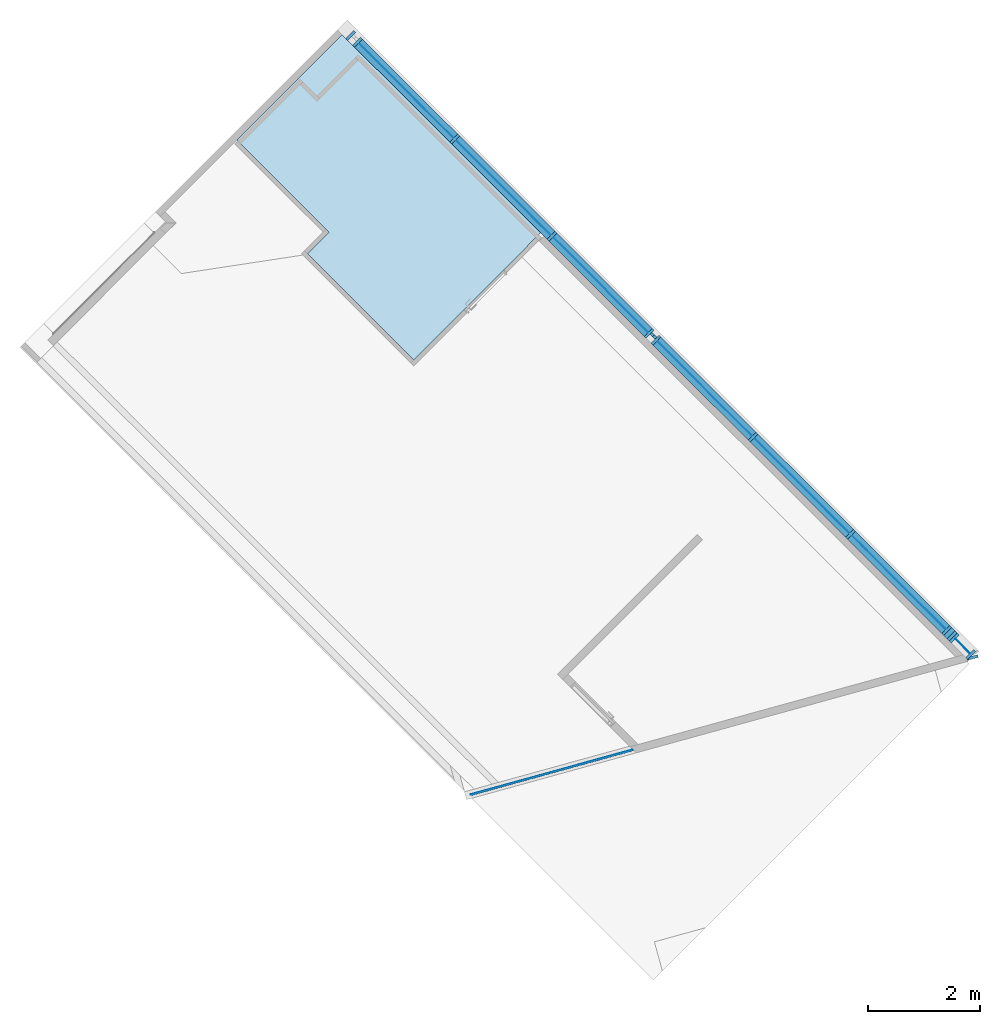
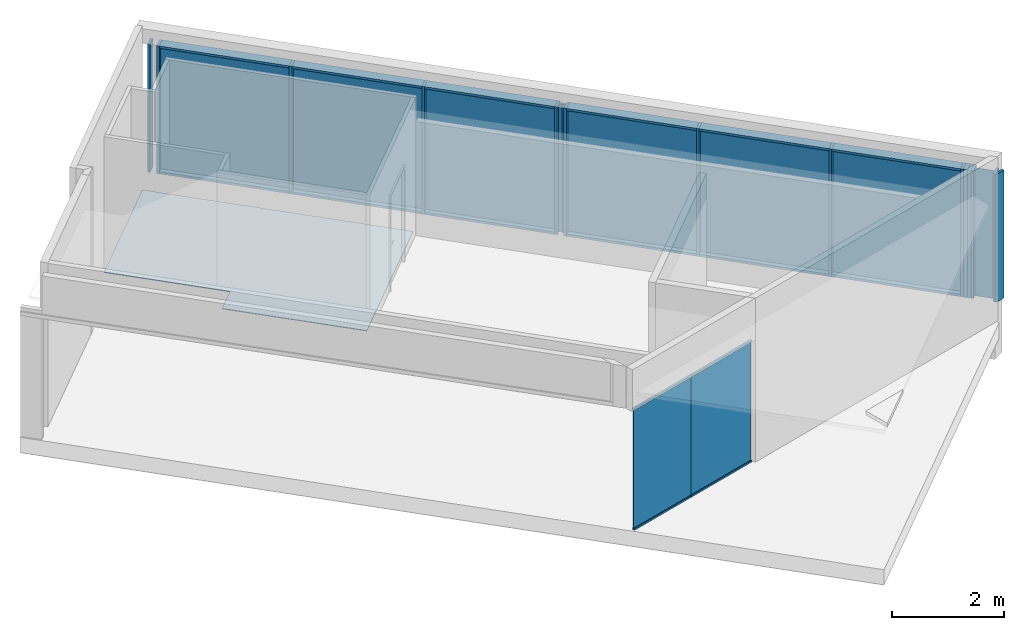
# One storey, part 1 of 6: 28 members, 13 plates, 1 slab, 6 elements without a shape of their own.
"""IFC2X3 building model written with IfcOpenShell, lengths in millimetres."""

from ifc_helpers import new_model, entity, si_unit, converted_unit, derived_unit, direction, frame, frame_2d, origin, origin_with_axes, origin_2d_with_axis, place, context, subcontext, project, spatial, polyline, rectangle, outline, extrude, source, transform, mapped, material, layer, layer_set, layer_usage, type_object, element, aggregate, save


model = new_model("IFC2X3")

# Units and contexts
model_context = context("Model", 3, precision=0.01, world=origin(), true_north=direction((6.12323399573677e-17, 1.0)))
plan_context = context("Plan", 3, precision=1e-05, world=origin_with_axes())
body_context = subcontext(model_context, "Body", "Model", "MODEL_VIEW")
ifc_project = project(units=[converted_unit("PLANEANGLEUNIT", "DEGREE", entity("IfcPositiveLengthMeasure", 0.0174532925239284), si_unit("PLANEANGLEUNIT", "RADIAN"), dimensions=[0, 0, 0, 0, 0, 0, 0]), si_unit("AREAUNIT", "SQUARE_METRE"), si_unit("LENGTHUNIT", "METRE", prefix="MILLI"), si_unit("MASSUNIT", "GRAM", prefix="KILO"), si_unit("POWERUNIT", "WATT"), si_unit("PRESSUREUNIT", "PASCAL", prefix="KILO"), si_unit("FORCEUNIT", "NEWTON", prefix="KILO"), si_unit("ELECTRICVOLTAGEUNIT", "VOLT"), si_unit("ELECTRICCURRENTUNIT", "AMPERE"), si_unit("THERMODYNAMICTEMPERATUREUNIT", "DEGREE_CELSIUS"), si_unit("TIMEUNIT", "SECOND"), si_unit("VOLUMEUNIT", "CUBIC_METRE"), derived_unit("LINEARVELOCITYUNIT", [(si_unit("LENGTHUNIT", "METRE"), 1), (si_unit("TIMEUNIT", "SECOND"), -1)]), derived_unit("VOLUMETRICFLOWRATEUNIT", [(si_unit("VOLUMEUNIT", "CUBIC_METRE"), 1), (si_unit("TIMEUNIT", "SECOND"), -1)]), derived_unit("THERMALTRANSMITTANCEUNIT", [(si_unit("POWERUNIT", "WATT"), 1), (si_unit("THERMODYNAMICTEMPERATUREUNIT", "KELVIN"), -1), (si_unit("AREAUNIT", "SQUARE_METRE"), -1)]), derived_unit("SOUNDPRESSUREUNIT", [(si_unit("PRESSUREUNIT", "PASCAL"), 1)])], contexts=[model_context, plan_context])

# Site, building, storey
site_placement = place(None, frame((0.0, -2.21771188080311e-09, 0.0), z_axis=(0.0, 0.0, 1.0), x_axis=(0.266093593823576, -0.963947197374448, 0.0)))
site = spatial("IfcSite", under=ifc_project, at=site_placement, Name="ENZV", CompositionType="ELEMENT")
building_placement = place(site_placement, origin_with_axes())
building = spatial("IfcBuilding", under=site, at=building_placement, Name="ZV001", CompositionType="ELEMENT")
storey_placement = place(building_placement, frame((0.0, 0.0, 9300.0), z_axis=(0.0, 0.0, 1.0), x_axis=(1.0, 0.0, 0.0)))
storey = spatial("IfcBuildingStorey", under=building, at=storey_placement, Name="H02", CompositionType="ELEMENT", Elevation=9300.0)

# Curtain wall, members
curtain_wall_type_1 = type_object("IfcCurtainWallType", Name="Curtain Wall:fasade", PredefinedType="NOTDEFINED")
curtain_wall_1_placement = place(storey_placement, frame((0.0, 0.0, -9300.0), z_axis=(0.0, 0.0, 1.0), x_axis=(1.0, 0.0, 0.0)))
curtain_wall_1 = element("IfcCurtainWall", 1, at=curtain_wall_1_placement, inside=storey, type_object=curtain_wall_type_1, Name="Curtain Wall:fasade", ObjectType="Curtain Wall:fasade")
ifc_material_1 = material(Name="Aluminium")
member_type_1 = type_object("IfcMemberType", Name="Rectangular Mullion:50x200mm", PredefinedType="MULLION", material=ifc_material_1)
shared_shape_1 = source(origin(), body_context, "Body", "SweptSolid", [
    extrude(rectangle(XDim=50.0, YDim=200.0, at=frame_2d((0.0, -1.4210854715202e-14), x_axis=(1.0, 0.0))), frame((0.0, 0.0, -2780.0), z_axis=(0.0, 0.0, 1.0), x_axis=(-1.0, 0.0, 0.0)), (0.0, 0.0, 1.0), 2779.99999999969),
])
member_1_placement = place(curtain_wall_1_placement, frame((-255162.136507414, 432057.225387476, 9700.0), z_axis=(0.0, 0.0, -1.0), x_axis=(-0.86940438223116, -0.494101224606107, 0.0)))
member_1 = element("IfcMember", 2, at=member_1_placement, type_object=member_type_1, material=ifc_material_1, Name="Rectangular Mullion:50x200mm", ObjectType="Rectangular Mullion:50x200mm", context=body_context, shape_type="MappedRepresentation", body=[
    mapped(shared_shape_1, transform((0.0, 0.0, 0.0), scale=1.0)),
])
member_2_placement = place(curtain_wall_1_placement, frame((-253037.312197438, 433264.808780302, 9700.0), z_axis=(0.0, 0.0, -1.0), x_axis=(-0.86940438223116, -0.494101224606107, 0.0)))
member_2 = element("IfcMember", 3, at=member_2_placement, type_object=member_type_1, material=ifc_material_1, Name="Rectangular Mullion:50x200mm", ObjectType="Rectangular Mullion:50x200mm", context=body_context, shape_type="MappedRepresentation", body=[
    mapped(shared_shape_1, transform((0.0, 0.0, 0.0), scale=1.0)),
])
member_3_placement = place(curtain_wall_1_placement, frame((-257286.091413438, 430850.136095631, 9700.0), z_axis=(0.0, 0.0, -1.0), x_axis=(-0.86940438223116, -0.494101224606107, 0.0)))
member_3 = element("IfcMember", 4, at=member_3_placement, type_object=member_type_1, material=ifc_material_1, Name="Rectangular Mullion:50x200mm", ObjectType="Rectangular Mullion:50x200mm", context=body_context, shape_type="MappedRepresentation", body=[
    mapped(shared_shape_1, transform((0.0, 0.0, 0.0), scale=1.0)),
])
member_4_placement = place(curtain_wall_1_placement, frame((-250930.745381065, 434462.016046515, 9700.0), z_axis=(0.0, 0.0, -1.0), x_axis=(-0.86940438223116, -0.494101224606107, 0.0)))
member_4 = element("IfcMember", 5, at=member_4_placement, type_object=member_type_1, material=ifc_material_1, Name="Rectangular Mullion:50x200mm", ObjectType="Rectangular Mullion:50x200mm", context=body_context, shape_type="MappedRepresentation", body=[
    mapped(shared_shape_1, transform((0.0, 0.0, 0.0), scale=1.0)),
])

curtain_wall_2_placement = place(storey_placement, frame((0.0, 0.0, -9300.0), z_axis=(0.0, 0.0, 1.0), x_axis=(1.0, 0.0, 0.0)))
curtain_wall_2 = element("IfcCurtainWall", 6, at=curtain_wall_2_placement, inside=storey, type_object=curtain_wall_type_1, Name="Curtain Wall:fasade", ObjectType="Curtain Wall:fasade")
member_5_placement = place(curtain_wall_2_placement, frame((-261682.669374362, 428351.466202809, 9700.0), z_axis=(0.0, 0.0, -1.0), x_axis=(-0.86940438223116, -0.494101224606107, 0.0)))
member_5 = element("IfcMember", 7, at=member_5_placement, type_object=member_type_1, material=ifc_material_1, Name="Rectangular Mullion:50x200mm", ObjectType="Rectangular Mullion:50x200mm", context=body_context, shape_type="MappedRepresentation", body=[
    mapped(shared_shape_1, transform((0.0, 0.0, 0.0), scale=1.0)),
])
member_6_placement = place(curtain_wall_2_placement, frame((-259557.845064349, 429559.049595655, 9700.0), z_axis=(0.0, 0.0, -1.0), x_axis=(-0.86940438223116, -0.494101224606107, 0.0)))
member_6 = element("IfcMember", 8, at=member_6_placement, type_object=member_type_1, material=ifc_material_1, Name="Rectangular Mullion:50x200mm", ObjectType="Rectangular Mullion:50x200mm", context=body_context, shape_type="MappedRepresentation", body=[
    mapped(shared_shape_1, transform((0.0, 0.0, 0.0), scale=1.0)),
])
member_7_placement = place(curtain_wall_2_placement, frame((-263806.624280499, 427144.376910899, 9700.0), z_axis=(0.0, 0.0, -1.0), x_axis=(-0.86940438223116, -0.494101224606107, 0.0)))
member_7 = element("IfcMember", 9, at=member_7_placement, type_object=member_type_1, material=ifc_material_1, Name="Rectangular Mullion:50x200mm", ObjectType="Rectangular Mullion:50x200mm", context=body_context, shape_type="MappedRepresentation", body=[
    mapped(shared_shape_1, transform((0.0, 0.0, 0.0), scale=1.0)),
])
member_8_placement = place(curtain_wall_2_placement, frame((-257433.89015842, 430766.138887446, 9700.0), z_axis=(0.0, 0.0, -1.0), x_axis=(-0.86940438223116, -0.494101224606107, 0.0)))
member_8 = element("IfcMember", 10, at=member_8_placement, type_object=member_type_1, material=ifc_material_1, Name="Rectangular Mullion:50x200mm", ObjectType="Rectangular Mullion:50x200mm", context=body_context, shape_type="MappedRepresentation", body=[
    mapped(shared_shape_1, transform((0.0, 0.0, 0.0), scale=1.0)),
])

# Curtain wall, member
curtain_wall_3_placement = place(storey_placement, frame((0.0, 0.0, -9300.0), z_axis=(0.0, 0.0, 1.0), x_axis=(1.0, 0.0, 0.0)))
curtain_wall_3 = element("IfcCurtainWall", 11, at=curtain_wall_3_placement, inside=storey, type_object=curtain_wall_type_1, Name="Curtain Wall:fasade", ObjectType="Curtain Wall:fasade")
member_9_placement = place(curtain_wall_3_placement, frame((-263954.423025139, 427060.379702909, 9700.0), z_axis=(0.0, 0.0, -1.0), x_axis=(-0.86940438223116, -0.494101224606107, 0.0)))
member_9 = element("IfcMember", 12, at=member_9_placement, type_object=member_type_1, material=ifc_material_1, Name="Rectangular Mullion:50x200mm", ObjectType="Rectangular Mullion:50x200mm", context=body_context, shape_type="MappedRepresentation", body=[
    mapped(shared_shape_1, transform((0.0, 0.0, 0.0), scale=1.0)),
])
aggregate(curtain_wall_3, [member_9])

curtain_wall_4_placement = place(storey_placement, frame((0.0, 0.0, -9300.0), z_axis=(0.0, 0.0, 1.0), x_axis=(1.0, 0.0, 0.0)))
curtain_wall_4 = element("IfcCurtainWall", 13, at=curtain_wall_4_placement, inside=storey, type_object=curtain_wall_type_1, Name="Curtain Wall:fasade", ObjectType="Curtain Wall:fasade")
member_type_2 = type_object("IfcMemberType", Name="Rectangular Mullion:50x200mm", PredefinedType="MULLION", material=ifc_material_1)
member_10_placement = place(curtain_wall_4_placement, frame((-250765.558548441, 434555.89527919, 9700.0), z_axis=(0.0, 0.0, -1.0), x_axis=(0.869404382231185, 0.494101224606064, 0.0)))
member_10 = element("IfcMember", 14, at=member_10_placement, type_object=member_type_2, material=ifc_material_1, Name="Rectangular Mullion:50x200mm", ObjectType="Rectangular Mullion:50x200mm", context=body_context, shape_type="MappedRepresentation", body=[
    mapped(shared_shape_1, transform((0.0, 0.0, 0.0), scale=1.0)),
])

# Member
member_type_3 = type_object("IfcMemberType", Name="Rectangular Mullion:50x200mm", PredefinedType="MULLION", material=ifc_material_1)
shared_shape_2 = source(origin(), body_context, "Body", "SweptSolid", [
    extrude(rectangle(XDim=50.0, YDim=200.0, at=frame_2d((0.0, -1.4210854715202e-14), x_axis=(1.0, 0.0))), frame((-25.0, 0.0, -2393.00000026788), z_axis=(0.0, 0.0, 1.0), x_axis=(-1.0, 0.0, 0.0)), (0.0, 0.0, 1.0), 2393.00000026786),
])
member_11_placement = place(curtain_wall_1_placement, frame((-257264.356303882, 430862.488626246, 12480.0), z_axis=(-0.869404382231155, -0.494101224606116, 0.0), x_axis=(0.0, 0.0, 1.0)))
member_11 = element("IfcMember", 15, at=member_11_placement, type_object=member_type_3, material=ifc_material_1, Name="Rectangular Mullion:50x200mm", ObjectType="Rectangular Mullion:50x200mm", context=body_context, shape_type="MappedRepresentation", body=[
    mapped(shared_shape_2, transform((0.0, 0.0, 0.0), scale=1.0)),
])

member_12_placement = place(curtain_wall_2_placement, frame((-263784.889170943, 427156.729441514, 12480.0), z_axis=(-0.869404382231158, -0.494101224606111, 0.0), x_axis=(0.0, 0.0, 1.0)))
member_12 = element("IfcMember", 16, at=member_12_placement, type_object=member_type_3, material=ifc_material_1, Name="Rectangular Mullion:50x200mm", ObjectType="Rectangular Mullion:50x200mm", context=body_context, shape_type="MappedRepresentation", body=[
    mapped(shared_shape_2, transform((0.0, 0.0, 0.0), scale=1.0)),
])

member_13_placement = place(curtain_wall_2_placement, frame((-259536.109954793, 429571.40212627, 12480.0), z_axis=(-0.869404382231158, -0.494101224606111, 0.0), x_axis=(0.0, 0.0, 1.0)))
member_13 = element("IfcMember", 17, at=member_13_placement, type_object=member_type_3, material=ifc_material_1, Name="Rectangular Mullion:50x200mm", ObjectType="Rectangular Mullion:50x200mm", context=body_context, shape_type="MappedRepresentation", body=[
    mapped(shared_shape_2, transform((0.0, 0.0, 0.0), scale=1.0)),
])

member_type_4 = type_object("IfcMemberType", Name="Rectangular Mullion:50x200mm", PredefinedType="MULLION", material=ifc_material_1)
shared_shape_3 = source(origin(), body_context, "Body", "SweptSolid", [
    extrude(rectangle(XDim=50.0, YDim=200.0, at=origin_2d_with_axis()), frame((-25.0, 0.0, -2393.99999977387), z_axis=(0.0, 0.0, 1.0), x_axis=(-1.0, 0.0, 0.0)), (0.0, 0.0, 1.0), 2393.99999977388),
])
member_14_placement = place(curtain_wall_1_placement, frame((-255140.401397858, 432069.577918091, 12480.0), z_axis=(-0.869404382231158, -0.494101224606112, 0.0), x_axis=(0.0, 0.0, 1.0)))
member_14 = element("IfcMember", 18, at=member_14_placement, type_object=member_type_4, material=ifc_material_1, Name="Rectangular Mullion:50x200mm", ObjectType="Rectangular Mullion:50x200mm", context=body_context, shape_type="MappedRepresentation", body=[
    mapped(shared_shape_3, transform((0.0, 0.0, 0.0), scale=1.0)),
])

member_type_5 = type_object("IfcMemberType", Name="Rectangular Mullion:50x200mm", PredefinedType="MULLION", material=ifc_material_1)
member_15_placement = place(curtain_wall_1_placement, frame((-253059.047306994, 433252.456249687, 9700.0), z_axis=(0.869404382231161, 0.494101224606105, 0.0), x_axis=(0.0, 0.0, -1.0)))
member_15 = element("IfcMember", 19, at=member_15_placement, type_object=member_type_5, material=ifc_material_1, Name="Rectangular Mullion:50x200mm", ObjectType="Rectangular Mullion:50x200mm", context=body_context, shape_type="MappedRepresentation", body=[
    mapped(shared_shape_3, transform((0.0, 0.0, 0.0), scale=1.0)),
])

member_16_placement = place(curtain_wall_2_placement, frame((-261660.934264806, 428363.818733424, 12480.0), z_axis=(-0.869404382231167, -0.494101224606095, 0.0), x_axis=(0.0, 0.0, 1.0)))
member_16 = element("IfcMember", 20, at=member_16_placement, type_object=member_type_4, material=ifc_material_1, Name="Rectangular Mullion:50x200mm", ObjectType="Rectangular Mullion:50x200mm", context=body_context, shape_type="MappedRepresentation", body=[
    mapped(shared_shape_3, transform((0.0, 0.0, 0.0), scale=1.0)),
])

member_17_placement = place(curtain_wall_2_placement, frame((-259579.580173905, 429546.69706504, 9700.0), z_axis=(0.869404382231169, 0.494101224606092, 0.0), x_axis=(0.0, 0.0, -1.0)))
member_17 = element("IfcMember", 21, at=member_17_placement, type_object=member_type_5, material=ifc_material_1, Name="Rectangular Mullion:50x200mm", ObjectType="Rectangular Mullion:50x200mm", context=body_context, shape_type="MappedRepresentation", body=[
    mapped(shared_shape_3, transform((0.0, 0.0, 0.0), scale=1.0)),
])

member_type_6 = type_object("IfcMemberType", Name="Rectangular Mullion:50x200mm", PredefinedType="MULLION", material=ifc_material_1)
shared_shape_4 = source(origin(), body_context, "Body", "SweptSolid", [
    extrude(rectangle(XDim=50.0, YDim=200.0, at=origin_2d_with_axis()), frame((-25.0, 0.0, -2372.99999796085), z_axis=(0.0, 0.0, 1.0), x_axis=(-1.0, 0.0, 0.0)), (0.0, 0.0, 1.0), 2372.99999796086),
])
member_18_placement = place(curtain_wall_1_placement, frame((-253015.577087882, 433277.161310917, 12480.0), z_axis=(-0.869404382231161, -0.494101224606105, 0.0), x_axis=(0.0, 0.0, 1.0)))
member_18 = element("IfcMember", 22, at=member_18_placement, type_object=member_type_6, material=ifc_material_1, Name="Rectangular Mullion:50x200mm", ObjectType="Rectangular Mullion:50x200mm", context=body_context, shape_type="MappedRepresentation", body=[
    mapped(shared_shape_4, transform((0.0, 0.0, 0.0), scale=1.0)),
])

member_type_7 = type_object("IfcMemberType", Name="Rectangular Mullion:50x200mm", PredefinedType="MULLION", material=ifc_material_1)
shared_shape_5 = source(origin(), body_context, "Body", "SweptSolid", [
    extrude(rectangle(XDim=50.0, YDim=200.0, at=frame_2d((0.0, -1.4210854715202e-14), x_axis=(1.0, 0.0))), frame((-25.0, 0.0, -2372.99999796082), z_axis=(0.0, 0.0, 1.0), x_axis=(-1.0, 0.0, 0.0)), (0.0, 0.0, 1.0), 2372.99999796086),
])
member_19_placement = place(curtain_wall_1_placement, frame((-250952.48049062, 434449.6635159, 9700.0), z_axis=(0.869404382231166, 0.494101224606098, 0.0), x_axis=(0.0, 0.0, -1.0)))
member_19 = element("IfcMember", 23, at=member_19_placement, type_object=member_type_7, material=ifc_material_1, Name="Rectangular Mullion:50x200mm", ObjectType="Rectangular Mullion:50x200mm", context=body_context, shape_type="MappedRepresentation", body=[
    mapped(shared_shape_5, transform((0.0, 0.0, 0.0), scale=1.0)),
])

member_type_8 = type_object("IfcMemberType", Name="Rectangular Mullion:50x200mm", PredefinedType="MULLION", material=ifc_material_1)
shared_shape_6 = source(origin(), body_context, "Body", "SweptSolid", [
    extrude(rectangle(XDim=50.0, YDim=200.0, at=frame_2d((0.0, -1.4210854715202e-14), x_axis=(1.0, 0.0))), frame((-25.0, 0.0, -2393.00000026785), z_axis=(0.0, 0.0, 1.0), x_axis=(-1.0, 0.0, 0.0)), (0.0, 0.0, 1.0), 2393.00000026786),
])
member_20_placement = place(curtain_wall_1_placement, frame((-255183.87161697, 432044.872856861, 9700.0), z_axis=(0.869404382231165, 0.494101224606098, 0.0), x_axis=(0.0, 0.0, -1.0)))
member_20 = element("IfcMember", 24, at=member_20_placement, type_object=member_type_8, material=ifc_material_1, Name="Rectangular Mullion:50x200mm", ObjectType="Rectangular Mullion:50x200mm", context=body_context, shape_type="MappedRepresentation", body=[
    mapped(shared_shape_6, transform((0.0, 0.0, 0.0), scale=1.0)),
])

member_21_placement = place(curtain_wall_2_placement, frame((-257455.625267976, 430753.786356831, 9700.0), z_axis=(0.86940438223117, 0.49410122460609, 0.0), x_axis=(0.0, 0.0, -1.0)))
member_21 = element("IfcMember", 25, at=member_21_placement, type_object=member_type_8, material=ifc_material_1, Name="Rectangular Mullion:50x200mm", ObjectType="Rectangular Mullion:50x200mm", context=body_context, shape_type="MappedRepresentation", body=[
    mapped(shared_shape_6, transform((0.0, 0.0, 0.0), scale=1.0)),
])

member_22_placement = place(curtain_wall_2_placement, frame((-261704.404483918, 428339.113672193, 9700.0), z_axis=(0.869404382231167, 0.494101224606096, 0.0), x_axis=(0.0, 0.0, -1.0)))
member_22 = element("IfcMember", 26, at=member_22_placement, type_object=member_type_8, material=ifc_material_1, Name="Rectangular Mullion:50x200mm", ObjectType="Rectangular Mullion:50x200mm", context=body_context, shape_type="MappedRepresentation", body=[
    mapped(shared_shape_6, transform((0.0, 0.0, 0.0), scale=1.0)),
])

# Curtain wall, member
curtain_wall_5_placement = place(storey_placement, frame((0.0, 0.0, -9300.0), z_axis=(0.0, 0.0, 1.0), x_axis=(1.0, 0.0, 0.0)))
curtain_wall_5 = element("IfcCurtainWall", 27, at=curtain_wall_5_placement, inside=storey, type_object=curtain_wall_type_1, Name="Curtain Wall:fasade", ObjectType="Curtain Wall:fasade")
member_type_9 = type_object("IfcMemberType", Name="Rectangular Mullion:50x200mm", PredefinedType="MULLION", material=ifc_material_1)
shared_shape_7 = source(origin(), body_context, "Body", "SweptSolid", [
    extrude(rectangle(XDim=50.0, YDim=200.0, at=frame_2d((0.0, -1.4210854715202e-14), x_axis=(1.0, 0.0))), frame((-25.0, 0.0, -2780.0), z_axis=(0.0, 0.0, 1.0), x_axis=(-1.0, 0.0, 0.0)), (0.0, 0.0, 1.0), 2779.9999999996),
])
member_23_placement = place(curtain_wall_5_placement, frame((-250372.271391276, 434775.434974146, 9700.0), z_axis=(0.0, 0.0, -1.0), x_axis=(-1.0, 0.0, 0.0)))
member_23 = element("IfcMember", 28, at=member_23_placement, type_object=member_type_9, material=ifc_material_1, Name="Rectangular Mullion:50x200mm", ObjectType="Rectangular Mullion:50x200mm", context=body_context, shape_type="MappedRepresentation", body=[
    mapped(shared_shape_7, transform((0.0, 0.0, 0.0), scale=1.0)),
])
aggregate(curtain_wall_5, [member_23])

# Member
member_type_10 = type_object("IfcMemberType", Name="Rectangular Mullion:50x200mm", PredefinedType="MULLION", material=ifc_material_1)
member_24_placement = place(curtain_wall_4_placement, frame((-250385.342786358, 434771.980081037, 9700.0), z_axis=(0.0, 0.0, -1.0), x_axis=(0.869404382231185, 0.494101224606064, 0.0)))
member_24 = element("IfcMember", 29, at=member_24_placement, type_object=member_type_10, material=ifc_material_1, Name="Rectangular Mullion:50x200mm", ObjectType="Rectangular Mullion:50x200mm", context=body_context, shape_type="MappedRepresentation", body=[
    mapped(shared_shape_7, transform((0.0, 0.0, 0.0), scale=1.0)),
])

# Curtain wall, members
curtain_wall_type_2 = type_object("IfcCurtainWallType", Name="Curtain Wall:IGF-06", PredefinedType="NOTDEFINED")
curtain_wall_6_placement = place(storey_placement, frame((0.0, 0.0, -9300.0), z_axis=(0.0, 0.0, 1.0), x_axis=(1.0, 0.0, 0.0)))
curtain_wall_6 = element("IfcCurtainWall", 30, at=curtain_wall_6_placement, inside=storey, type_object=curtain_wall_type_2, Name="Curtain Wall:IGF-06", ObjectType="Curtain Wall:IGF-06")
member_type_11 = type_object("IfcMemberType", Name="Rectangular Mullion:Drivhus 40x40mm", PredefinedType="MULLION", material=ifc_material_1)
shared_shape_8 = source(origin(), body_context, "Body", "SweptSolid", [
    extrude(rectangle(XDim=40.0, YDim=40.0, at=frame_2d((0.0, 1.77635683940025e-15), x_axis=(1.0, 0.0))), frame((-20.0, 0.0, -1454.02686135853), z_axis=(0.0, 0.0, 1.0), x_axis=(-1.0, 0.0, 0.0)), (0.0, 0.0, 1.0), 1454.02686135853),
])
member_25_placement = place(curtain_wall_6_placement, frame((-250370.362367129, 426979.765248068, 9300.0), z_axis=(0.0, 1.0, 0.0), x_axis=(0.0, 0.0, -1.0)))
member_25 = element("IfcMember", 31, at=member_25_placement, type_object=member_type_11, material=ifc_material_1, Name="Rectangular Mullion:Drivhus 40x40mm", ObjectType="Rectangular Mullion:Drivhus 40x40mm", context=body_context, shape_type="MappedRepresentation", body=[
    mapped(shared_shape_8, transform((0.0, 0.0, 0.0), scale=1.0)),
])
member_type_12 = type_object("IfcMemberType", Name="Rectangular Mullion:Drivhus 40x40mm", PredefinedType="MULLION", material=ifc_material_1)
member_26_placement = place(curtain_wall_6_placement, frame((-250370.362367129, 425525.738386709, 11950.0), z_axis=(0.0, -1.0, 0.0), x_axis=(0.0, 0.0, 1.0)))
member_26 = element("IfcMember", 32, at=member_26_placement, type_object=member_type_12, material=ifc_material_1, Name="Rectangular Mullion:Drivhus 40x40mm", ObjectType="Rectangular Mullion:Drivhus 40x40mm", context=body_context, shape_type="MappedRepresentation", body=[
    mapped(shared_shape_8, transform((0.0, 0.0, 0.0), scale=1.0)),
])
member_type_13 = type_object("IfcMemberType", Name="Rectangular Mullion:Drivhus 40x40mm", PredefinedType="MULLION", material=ifc_material_1)
shared_shape_9 = source(origin(), body_context, "Body", "SweptSolid", [
    extrude(rectangle(XDim=40.0, YDim=40.0, at=frame_2d((0.0, 1.77635683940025e-15), x_axis=(1.0, 0.0))), frame((-20.0, 0.0, -1528.64497005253), z_axis=(0.0, 0.0, 1.0), x_axis=(-1.0, 0.0, 0.0)), (0.0, 0.0, 1.0), 1528.64497005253),
])
member_27_placement = place(curtain_wall_6_placement, frame((-250370.362367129, 428508.41021812, 9300.0), z_axis=(0.0, 1.0, 0.0), x_axis=(0.0, 0.0, -1.0)))
member_27 = element("IfcMember", 33, at=member_27_placement, type_object=member_type_13, material=ifc_material_1, Name="Rectangular Mullion:Drivhus 40x40mm", ObjectType="Rectangular Mullion:Drivhus 40x40mm", context=body_context, shape_type="MappedRepresentation", body=[
    mapped(shared_shape_9, transform((0.0, 0.0, 0.0), scale=1.0)),
])
member_type_14 = type_object("IfcMemberType", Name="Rectangular Mullion:Drivhus 40x40mm", PredefinedType="MULLION", material=ifc_material_1)
member_28_placement = place(curtain_wall_6_placement, frame((-250370.362367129, 426979.765248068, 11950.0), z_axis=(0.0, -1.0, 0.0), x_axis=(0.0, 0.0, 1.0)))
member_28 = element("IfcMember", 34, at=member_28_placement, type_object=member_type_14, material=ifc_material_1, Name="Rectangular Mullion:Drivhus 40x40mm", ObjectType="Rectangular Mullion:Drivhus 40x40mm", context=body_context, shape_type="MappedRepresentation", body=[
    mapped(shared_shape_9, transform((0.0, 0.0, 0.0), scale=1.0)),
])

# Plate
ifc_material_2 = material(Name="Default")
plate_type_1 = type_object("IfcPlateType", Name="System Panel:Tettfelt 200", PredefinedType="CURTAIN_PANEL", material=ifc_material_2)
shared_shape_10 = source(origin(), body_context, "Body", "SweptSolid", [
    extrude(rectangle(XDim=200.0, YDim=79.9999999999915, at=frame_2d((0.0, -2.41939801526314e-12), x_axis=(1.0, 0.0))), frame((0.0, 0.0, 0.0), z_axis=(0.0, 0.0, 1.0), x_axis=(0.0, 1.0, 0.0)), (0.0, 0.0, 1.0), 2779.99999999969),
])
plate_1_placement = place(curtain_wall_1_placement, frame((-250874.23409622, 434494.132626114, 9700.0), z_axis=(0.0, 0.0, 1.0), x_axis=(-0.86940438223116, -0.494101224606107, 0.0)))
plate_1 = element("IfcPlate", 35, at=plate_1_placement, type_object=plate_type_1, material=ifc_material_2, Name="System Panel:Tettfelt 200", ObjectType="System Panel:Tettfelt 200", context=body_context, shape_type="MappedRepresentation", body=[
    mapped(shared_shape_10, transform((0.0, 0.0, 0.0), scale=1.0)),
])

ifc_material_3 = material(Name="Glass")
plate_type_2 = type_object("IfcPlateType", Name="System Panel:Glassfelt 10mm", PredefinedType="CURTAIN_PANEL", material=ifc_material_3)
shared_shape_11 = source(origin(), body_context, "Body", "SweptSolid", [
    extrude(rectangle(XDim=10.0, YDim=2372.99999796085, at=frame_2d((0.0, 1.59161572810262e-12), x_axis=(1.0, 0.0))), frame((0.0, 0.0, 0.0), z_axis=(0.0, 0.0, 1.0), x_axis=(0.0, 1.0, 0.0)), (0.0, 0.0, 1.0), 2679.99999999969),
])
plate_2_placement = place(curtain_wall_1_placement, frame((-251984.028789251, 433863.412413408, 9750.0), z_axis=(0.0, 0.0, 1.0), x_axis=(-0.86940438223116, -0.494101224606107, 0.0)))
plate_2 = element("IfcPlate", 36, at=plate_2_placement, type_object=plate_type_2, material=ifc_material_3, Name="System Panel:Glassfelt 10mm", ObjectType="System Panel:Glassfelt 10mm", context=body_context, shape_type="MappedRepresentation", body=[
    mapped(shared_shape_11, transform((0.0, 0.0, 0.0), scale=1.0)),
])

plate_type_3 = type_object("IfcPlateType", Name="System Panel:Glassfelt 10mm", PredefinedType="CURTAIN_PANEL", material=ifc_material_3)
shared_shape_12 = source(origin(), body_context, "Body", "SweptSolid", [
    extrude(rectangle(XDim=10.0, YDim=2393.9999997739, at=frame_2d((0.0, -1.26192389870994e-11), x_axis=(1.0, 0.0))), frame((0.0, 0.0, 0.0), z_axis=(0.0, 0.0, 1.0), x_axis=(0.0, 1.0, 0.0)), (0.0, 0.0, 1.0), 2679.99999999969),
])
plate_3_placement = place(curtain_wall_1_placement, frame((-254099.724352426, 432661.017083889, 9750.0), z_axis=(0.0, 0.0, 1.0), x_axis=(-0.86940438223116, -0.494101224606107, 0.0)))
plate_3 = element("IfcPlate", 37, at=plate_3_placement, type_object=plate_type_3, material=ifc_material_3, Name="System Panel:Glassfelt 10mm", ObjectType="System Panel:Glassfelt 10mm", context=body_context, shape_type="MappedRepresentation", body=[
    mapped(shared_shape_12, transform((0.0, 0.0, 0.0), scale=1.0)),
])

plate_type_4 = type_object("IfcPlateType", Name="System Panel:Glassfelt 10mm", PredefinedType="CURTAIN_PANEL", material=ifc_material_3)
plate_4_placement = place(curtain_wall_1_placement, frame((-256224.113960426, 431453.680741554, 9750.0), z_axis=(0.0, 0.0, 1.0), x_axis=(-0.86940438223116, -0.494101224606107, 0.0)))
plate_4 = element("IfcPlate", 38, at=plate_4_placement, type_object=plate_type_4, material=ifc_material_3, Name="System Panel:Glassfelt 10mm", ObjectType="System Panel:Glassfelt 10mm", context=body_context, shape_type="MappedRepresentation", body=[
    mapped(shared_shape_12, transform((0.0, 0.0, 0.0), scale=1.0)),
])

plate_5_placement = place(curtain_wall_2_placement, frame((-258495.867611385, 430162.594241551, 9750.0), z_axis=(0.0, 0.0, 1.0), x_axis=(-0.86940438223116, -0.494101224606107, 0.0)))
plate_5 = element("IfcPlate", 39, at=plate_5_placement, type_object=plate_type_4, material=ifc_material_3, Name="System Panel:Glassfelt 10mm", ObjectType="System Panel:Glassfelt 10mm", context=body_context, shape_type="MappedRepresentation", body=[
    mapped(shared_shape_12, transform((0.0, 0.0, 0.0), scale=1.0)),
])

plate_6_placement = place(curtain_wall_2_placement, frame((-260620.257219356, 428955.257899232, 9750.0), z_axis=(0.0, 0.0, 1.0), x_axis=(-0.86940438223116, -0.494101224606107, 0.0)))
plate_6 = element("IfcPlate", 40, at=plate_6_placement, type_object=plate_type_3, material=ifc_material_3, Name="System Panel:Glassfelt 10mm", ObjectType="System Panel:Glassfelt 10mm", context=body_context, shape_type="MappedRepresentation", body=[
    mapped(shared_shape_12, transform((0.0, 0.0, 0.0), scale=1.0)),
])

plate_7_placement = place(curtain_wall_2_placement, frame((-262744.64682743, 427747.921556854, 9750.0), z_axis=(0.0, 0.0, 1.0), x_axis=(-0.86940438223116, -0.494101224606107, 0.0)))
plate_7 = element("IfcPlate", 41, at=plate_7_placement, type_object=plate_type_4, material=ifc_material_3, Name="System Panel:Glassfelt 10mm", ObjectType="System Panel:Glassfelt 10mm", context=body_context, shape_type="MappedRepresentation", body=[
    mapped(shared_shape_12, transform((0.0, 0.0, 0.0), scale=1.0)),
])

plate_type_5 = type_object("IfcPlateType", Name="System Panel:Tettfelt 50mm", PredefinedType="CURTAIN_PANEL", material=ifc_material_2)
shared_shape_13 = source(origin(), body_context, "Body", "SweptSolid", [
    extrude(rectangle(XDim=50.0, YDim=60.0005724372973, at=frame_2d((0.0, 2.94875235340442e-12), x_axis=(1.0, 0.0))), frame((0.0, -25.0, 0.0), z_axis=(0.0, 0.0, 1.0), x_axis=(0.0, 1.0, 0.0)), (0.0, 0.0, 1.0), 2779.99999999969),
])
plate_8_placement = place(curtain_wall_1_placement, frame((-257333.9089033, 430822.960386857, 9700.0), z_axis=(0.0, 0.0, 1.0), x_axis=(-0.86940438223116, -0.494101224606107, 0.0)))
plate_8 = element("IfcPlate", 42, at=plate_8_placement, type_object=plate_type_5, material=ifc_material_2, Name="System Panel:Tettfelt 50mm", ObjectType="System Panel:Tettfelt 50mm", context=body_context, shape_type="MappedRepresentation", body=[
    mapped(shared_shape_13, transform((0.0, 0.0, 0.0), scale=1.0)),
])

aggregate(curtain_wall_1, [member_1, member_2, member_3, member_4, member_11, member_14, member_18, member_19, member_20, member_15, plate_1, plate_2, plate_3, plate_4, plate_8])

plate_type_6 = type_object("IfcPlateType", Name="System Panel:Tettfelt 50mm", PredefinedType="CURTAIN_PANEL", material=ifc_material_2)
plate_9_placement = place(curtain_wall_2_placement, frame((-257386.073166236, 430793.314313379, 9700.0), z_axis=(0.0, 0.0, 1.0), x_axis=(-0.86940438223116, -0.494101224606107, 0.0)))
plate_9 = element("IfcPlate", 43, at=plate_9_placement, type_object=plate_type_6, material=ifc_material_2, Name="System Panel:Tettfelt 50mm", ObjectType="System Panel:Tettfelt 50mm", context=body_context, shape_type="MappedRepresentation", body=[
    mapped(shared_shape_13, transform((0.0, 0.0, 0.0), scale=1.0)),
])

aggregate(curtain_wall_2, [member_5, member_6, member_7, member_8, member_12, member_16, member_13, member_21, member_22, member_17, plate_9, plate_5, plate_6, plate_7])

plate_type_7 = type_object("IfcPlateType", Name="System Panel:Tettfelt 200", PredefinedType="CURTAIN_PANEL", material=ifc_material_2)
shared_shape_14 = source(origin(), body_context, "Body", "SweptSolid", [
    extrude(rectangle(XDim=200.0, YDim=59.99999999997, at=frame_2d((0.0, -4.57411886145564e-12), x_axis=(1.0, 0.0))), frame((0.0, 0.0, 0.0), z_axis=(0.0, 0.0, 1.0), x_axis=(0.0, 1.0, 0.0)), (0.0, 0.0, 1.0), 2779.99999999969),
])
plate_10_placement = place(curtain_wall_4_placement, frame((-250813.375789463, 434528.719711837, 9700.0), z_axis=(0.0, 0.0, 1.0), x_axis=(0.869404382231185, 0.494101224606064, 0.0)))
plate_10 = element("IfcPlate", 44, at=plate_10_placement, type_object=plate_type_7, material=ifc_material_2, Name="System Panel:Tettfelt 200", ObjectType="System Panel:Tettfelt 200", context=body_context, shape_type="MappedRepresentation", body=[
    mapped(shared_shape_14, transform((0.0, 0.0, 0.0), scale=1.0)),
])

plate_type_8 = type_object("IfcPlateType", Name="System Panel:Glassfelt 10mm", PredefinedType="CURTAIN_PANEL", material=ifc_material_3)
shared_shape_15 = source(origin(), body_context, "Body", "SweptSolid", [
    extrude(rectangle(XDim=10.0, YDim=362.329014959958, at=frame_2d((0.0, 1.93836058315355e-11), x_axis=(1.0, 0.0))), frame((0.0, 0.0, 0.0), z_axis=(0.0, 0.0, 1.0), x_axis=(0.0, 1.0, 0.0)), (0.0, 0.0, 1.0), 2779.99999999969),
])
plate_11_placement = place(curtain_wall_4_placement, frame((-250586.318222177, 434657.761414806, 9700.0), z_axis=(0.0, 0.0, 1.0), x_axis=(0.869404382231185, 0.494101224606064, 0.0)))
plate_11 = element("IfcPlate", 45, at=plate_11_placement, type_object=plate_type_8, material=ifc_material_3, Name="System Panel:Glassfelt 10mm", ObjectType="System Panel:Glassfelt 10mm", context=body_context, shape_type="MappedRepresentation", body=[
    mapped(shared_shape_15, transform((0.0, 0.0, 0.0), scale=1.0)),
])

aggregate(curtain_wall_4, [member_24, member_10, plate_10, plate_11])

plate_type_9 = type_object("IfcPlateType", Name="System Panel:Glassfelt_limte skjøter", PredefinedType="CURTAIN_PANEL", material=ifc_material_3)
shared_shape_16 = source(origin(), body_context, "Body", "SweptSolid", [
    extrude(rectangle(XDim=10.0, YDim=1528.64497005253, at=origin_2d_with_axis()), frame((0.0, 0.0, 0.0), z_axis=(0.0, 0.0, 1.0), x_axis=(0.0, 1.0, 0.0)), (0.0, 0.0, 1.0), 2570.0),
])
plate_12_placement = place(curtain_wall_6_placement, frame((-250370.362367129, 427744.087733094, 9340.0), z_axis=(0.0, 0.0, 1.0), x_axis=(0.0, -1.0, 0.0)))
plate_12 = element("IfcPlate", 46, at=plate_12_placement, type_object=plate_type_9, material=ifc_material_3, Name="System Panel:Glassfelt_limte skjøter", ObjectType="System Panel:Glassfelt_limte skjøter", context=body_context, shape_type="MappedRepresentation", body=[
    mapped(shared_shape_16, transform((0.0, 0.0, 0.0), scale=1.0)),
])

plate_type_10 = type_object("IfcPlateType", Name="System Panel:Glassfelt_limte skjøter", PredefinedType="CURTAIN_PANEL", material=ifc_material_3)
shared_shape_17 = source(origin(), body_context, "Body", "SweptSolid", [
    extrude(rectangle(XDim=10.0, YDim=1454.02686135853, at=origin_2d_with_axis()), frame((0.0, 0.0, 0.0), z_axis=(0.0, 0.0, 1.0), x_axis=(0.0, 1.0, 0.0)), (0.0, 0.0, 1.0), 2570.0),
])
plate_13_placement = place(curtain_wall_6_placement, frame((-250370.362367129, 426252.751817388, 9340.0), z_axis=(0.0, 0.0, 1.0), x_axis=(0.0, -1.0, 0.0)))
plate_13 = element("IfcPlate", 47, at=plate_13_placement, type_object=plate_type_10, material=ifc_material_3, Name="System Panel:Glassfelt_limte skjøter", ObjectType="System Panel:Glassfelt_limte skjøter", context=body_context, shape_type="MappedRepresentation", body=[
    mapped(shared_shape_17, transform((0.0, 0.0, 0.0), scale=1.0)),
])

aggregate(curtain_wall_6, [member_25, member_27, member_28, member_26, plate_12, plate_13])

# Slab
ifc_material_4 = material(Name="Gulv - Vinyl")
ifc_layer_1 = layer(ifc_material_4, 2.5)
ifc_material_5 = material(Name="Avretting")
ifc_layer_2 = layer(ifc_material_5, 12.5)
ifc_layer_set = layer_set([ifc_layer_1, ifc_layer_2], Name="Floor:ENZV_G03_Banebelegg vinyl")
ifc_layer_usage = layer_usage(ifc_layer_set, "AXIS3", "POSITIVE", 0.0)
slab_type = type_object("IfcSlabType", Name="Floor:ENZV_G03_Banebelegg vinyl", PredefinedType="FLOOR", material=ifc_layer_set)
slab_placement = place(storey_placement, origin_with_axes())
element("IfcSlab", 48, at=slab_placement, inside=storey, type_object=slab_type, material=ifc_layer_usage, Name="Floor:ENZV_G03_Banebelegg vinyl", ObjectType="Floor:ENZV_G03_Banebelegg vinyl", PredefinedType="FLOOR", context=body_context, shape_type="SweptSolid", body=[
    extrude(outline(polyline([(-1947.23329640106, -2553.54108419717), (1246.41098300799, -2553.54108419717), (1246.40843476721, 116.094691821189), (700.821132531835, 116.094171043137), (700.818916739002, 2437.44476242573), (-1947.22617064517, 2437.44854310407), (-1947.23329640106, -2553.54108419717)])), frame((-260927.464413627, 426425.915804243, 0.0), z_axis=(0.0, 0.0, -1.0), x_axis=(0.494099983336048, -0.869405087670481, 0.0)), (0.0, 0.0, 1.0), 14.9999999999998),
])

save(model, "model.ifc")
